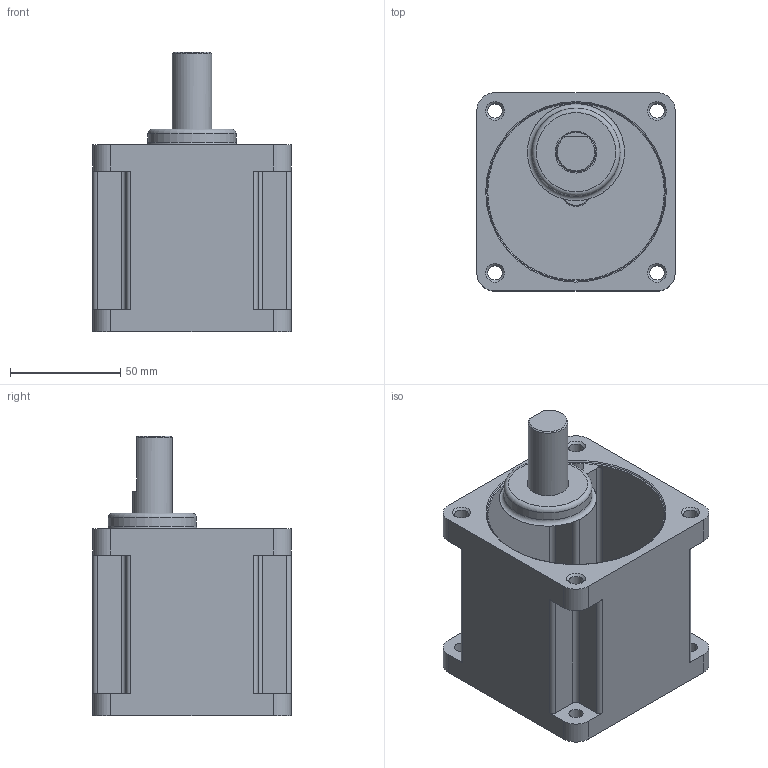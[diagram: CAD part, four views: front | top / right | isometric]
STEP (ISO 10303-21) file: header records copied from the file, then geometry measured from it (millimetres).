
FILE_DESCRIPTION((''),'2;1');
FILE_NAME('D:\미주향3D\GEAR HEAD\GEARHEAD\60W\S9DD3B~200B.stp','2013-12-13T12:10:08',('leebh'),(''),'Autodesk Inventor 2011','Autodesk Inventor 2011','');
FILE_SCHEMA(('AUTOMOTIVE_DESIGN { 1 0 10303 214 1 1 1 1 }'));
Length unit declared in the file: millimetre
Products named in the file (1): 부품2
Bounding box: 90 x 90 x 127 mm (x, y, z)
Volume: 620264.9 mm3; surface area: 53745.1 mm2
Topology: 1 solids, 1 shells, 74 faces, 191 edges, 124 vertices
Faces by surface type: cylinder 33, plane 30, cone 7, torus 4
Full cylindrical faces by diameter (mm): 6.5 x8, 12 x1, 18 x1, 19 x1, 40 x1, 83 x1
Entity records: 2188 total; most frequent: DIRECTION 392, CARTESIAN_POINT 365, ORIENTED_EDGE 330, EDGE_CURVE 165, AXIS2_PLACEMENT_3D 154, VERTEX_POINT 121, EDGE_LOOP 118, VECTOR 84
